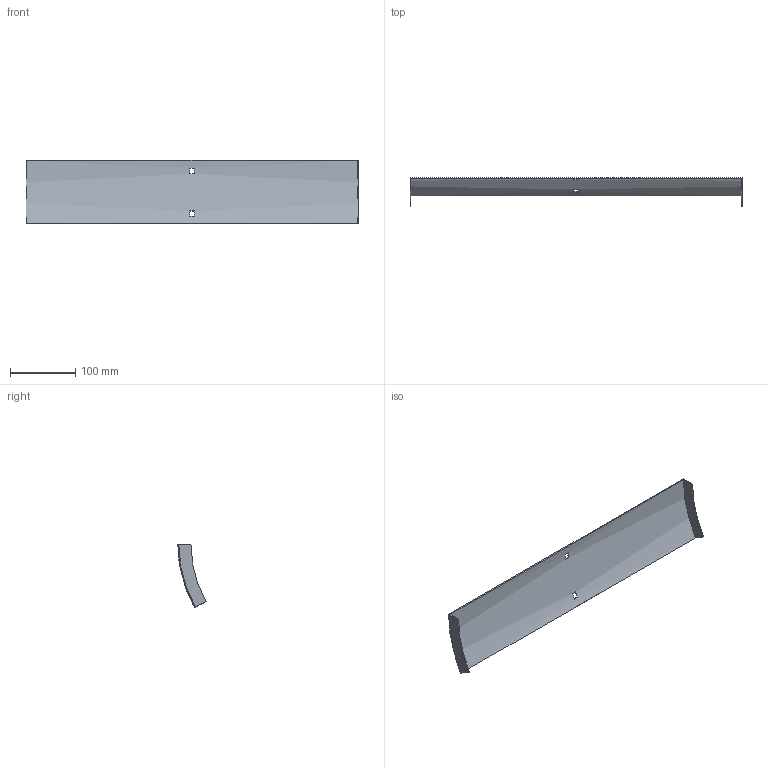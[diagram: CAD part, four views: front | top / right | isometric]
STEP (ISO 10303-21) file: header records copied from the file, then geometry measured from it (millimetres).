
FILE_DESCRIPTION (( 'STEP AP214' ), '1' );
FILE_NAME ('35N1I500.step', '2025-02-21T09:13:41', ( '' ), ( '' ), 'SwSTEP 2.0', 'SolidWorks 2023', '' );
FILE_SCHEMA (( 'AUTOMOTIVE_DESIGN' ));
Length unit declared in the file: millimetre
Products named in the file (1): 35N1I500
Bounding box: 507 x 43.31 x 97 mm (x, y, z)
Volume: 82100.6 mm3; surface area: 111467.3 mm2
Topology: 1 solids, 1 shells, 18 faces, 48 edges, 32 vertices
Faces by surface type: plane 14, cylinder 4
Entity records: 599 total; most frequent: DIRECTION 102, CARTESIAN_POINT 99, ORIENTED_EDGE 96, EDGE_CURVE 48, AXIS2_PLACEMENT_3D 35, LINE 32, VECTOR 32, VERTEX_POINT 32
